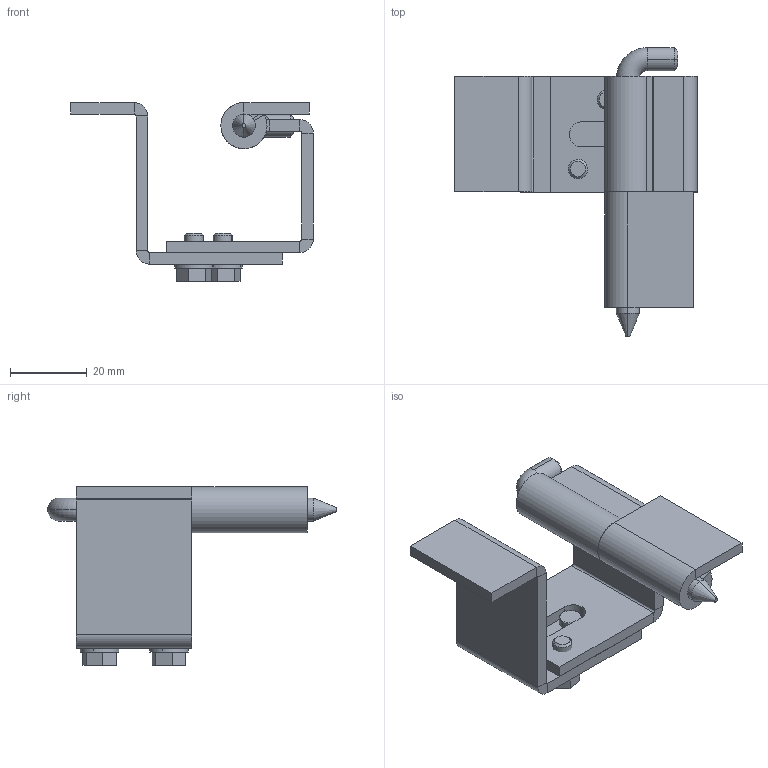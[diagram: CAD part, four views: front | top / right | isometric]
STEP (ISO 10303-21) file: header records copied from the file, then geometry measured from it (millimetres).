
FILE_DESCRIPTION (( 'STEP AP214' ), '1' );
FILE_NAME ('3.ST46.001.STEP', '2009-11-27T08:45:14', ( 'Rak' ), ( 'ROZTOCZE' ), 'SwSTEP 2.0', 'SolidWorks 2004231', '' );
FILE_SCHEMA (( 'AUTOMOTIVE_DESIGN' ));
Length unit declared in the file: millimetre
Products named in the file (6): 3B.St46.01.00.00_Domyœlna; 3B.St46.03.00.00_Domyœlna; ST27.001.03; Sruba M5x8_Domyœlna; 3B.St46.02.00.00_Domyœlna; 3.ST46.001
Assembly tree (6 placements, depth 2):
  3.ST46.001
    ST27.001.03
    Sruba M5x8_Domyœlna  x2
    3B.St46.03.00.00_Domyœlna
    3B.St46.02.00.00_Domyœlna
    3B.St46.01.00.00_Domyœlna
Bounding box: 63 x 75 x 46.5 mm (x, y, z)
Volume: 23452 mm3; surface area: 18474.9 mm2
Topology: 6 solids, 6 shells, 146 faces, 318 edges, 192 vertices
Faces by surface type: plane 85, cylinder 47, cone 8, torus 6
Entity records: 3711 total; most frequent: DIRECTION 652, CARTESIAN_POINT 580, ORIENTED_EDGE 556, EDGE_CURVE 278, AXIS2_PLACEMENT_3D 238, VECTOR 176, LINE 176, VERTEX_POINT 166
